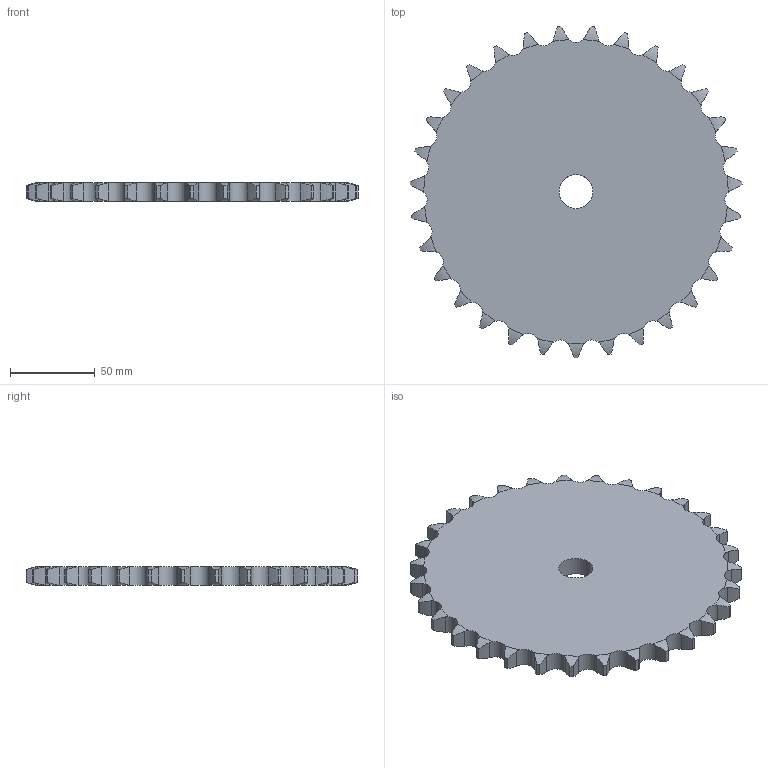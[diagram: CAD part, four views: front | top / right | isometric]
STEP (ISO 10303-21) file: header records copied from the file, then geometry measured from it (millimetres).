
FILE_DESCRIPTION((''),'2;1');
FILE_NAME('500-401-0031_PRT','2021-02-12T',('Brieden'),('Brieden'),'PRO/ENGINEER BY PARAMETRIC TECHNOLOGY CORPORATION, 2010160','PRO/ENGINEER BY PARAMETRIC TECHNOLOGY CORPORATION, 2010160','');
FILE_SCHEMA(('AUTOMOTIVE_DESIGN { 1 0 10303 214 1 1 1 1 }'));
Length unit declared in the file: millimetre
Products named in the file (1): 500-401-0031_PRT
Bounding box: 196.1 x 195.85 x 11.1 mm (x, y, z)
Volume: 289547.9 mm3; surface area: 62498.4 mm2
Topology: 1 solids, 1 shells, 190 faces, 564 edges, 376 vertices
Faces by surface type: cylinder 126, torus 62, plane 2
Entity records: 9323 total; most frequent: CARTESIAN_POINT 2768, ORIENTED_EDGE 1128, DIRECTION 886, PRESENTATION_STYLE_ASSIGNMENT 565, STYLED_ITEM 565, CURVE_STYLE 564, EDGE_CURVE 564, AXIS2_PLACEMENT_3D 380
